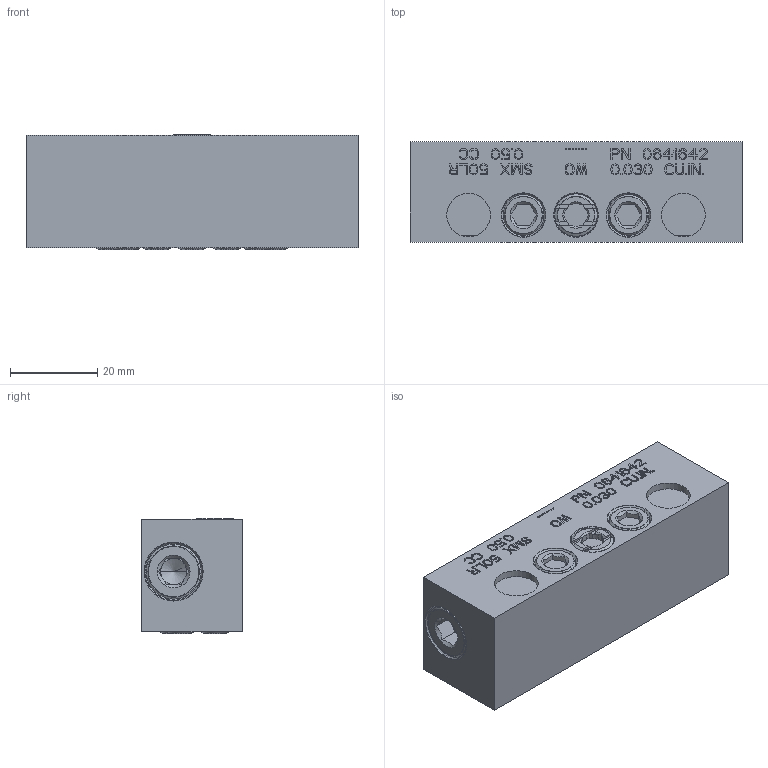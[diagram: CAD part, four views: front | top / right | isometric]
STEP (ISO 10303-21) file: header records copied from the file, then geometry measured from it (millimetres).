
FILE_DESCRIPTION((''),'2;1');
FILE_NAME('0641642_SMX_50LR','2023-07-21T12:03:51',('pietro.masciave'),(''),'CREO PARAMETRIC BY PTC INC, 2022281','CREO PARAMETRIC BY PTC INC, 2022281','');
FILE_SCHEMA(('CONFIG_CONTROL_DESIGN'));
Length unit declared in the file: millimetre
Products named in the file (1): 0641642_SMX_50LR
Bounding box: 76 x 23 x 26.33 mm (x, y, z)
Volume: 43965 mm3; surface area: 12641.7 mm2
Topology: 1 solids, 14 shells, 1381 faces, 3821 edges, 2539 vertices
Faces by surface type: plane 1207, cylinder 108, cone 44, torus 22
Entity records: 44427 total; most frequent: CARTESIAN_POINT 8869, ORIENTED_EDGE 7594, DIRECTION 6872, EDGE_CURVE 3817, VECTOR 3388, LINE 3388, VERTEX_POINT 2539, AXIS2_PLACEMENT_3D 1742
